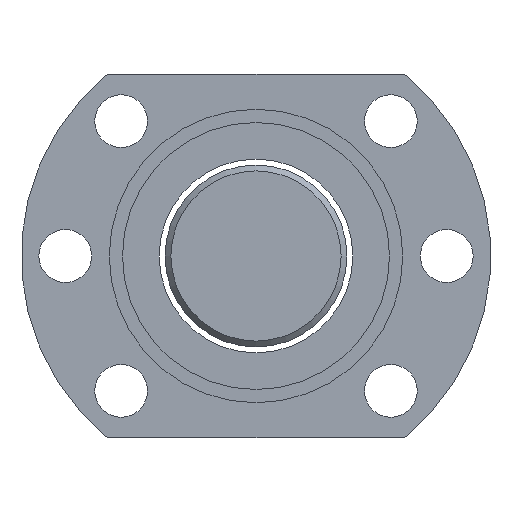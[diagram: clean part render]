
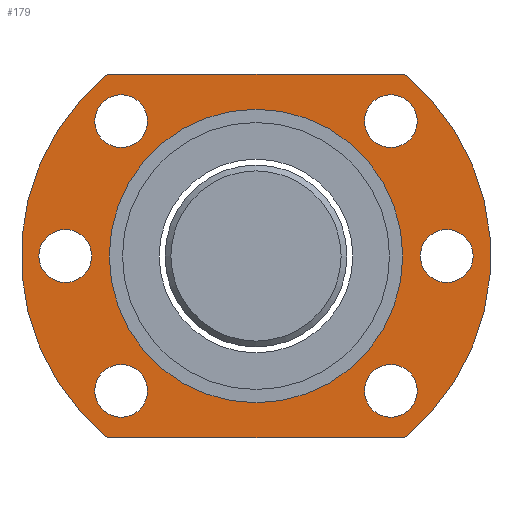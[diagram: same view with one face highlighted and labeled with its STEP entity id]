
A CAD part, left-side view. The second image highlights one B-rep face of the part: STEP entity #179.
In plain terms, the highlighted planar face has unit normal (-1, 0, 0).
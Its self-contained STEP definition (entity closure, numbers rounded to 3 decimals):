
#105=LINE('',#1156,#113);
#106=LINE('',#1160,#114);
#113=VECTOR('',#962,1.);
#114=VECTOR('',#965,1.);
#179=ADVANCED_FACE('',(#283,#284,#285,#286,#287,#288,#289,#290),#216,.T.);
#216=PLANE('',#798);
#283=FACE_BOUND('',#383,.T.);
#284=FACE_BOUND('',#384,.T.);
#285=FACE_BOUND('',#385,.T.);
#286=FACE_BOUND('',#386,.T.);
#287=FACE_BOUND('',#387,.T.);
#288=FACE_BOUND('',#388,.T.);
#289=FACE_BOUND('',#389,.T.);
#290=FACE_BOUND('',#390,.T.);
#383=EDGE_LOOP('',(#492));
#384=EDGE_LOOP('',(#493));
#385=EDGE_LOOP('',(#494,#495,#496,#497));
#386=EDGE_LOOP('',(#498));
#387=EDGE_LOOP('',(#499));
#388=EDGE_LOOP('',(#500));
#389=EDGE_LOOP('',(#501));
#390=EDGE_LOOP('',(#502));
#492=ORIENTED_EDGE('',*,*,#649,.T.);
#493=ORIENTED_EDGE('',*,*,#638,.F.);
#494=ORIENTED_EDGE('',*,*,#650,.T.);
#495=ORIENTED_EDGE('',*,*,#651,.T.);
#496=ORIENTED_EDGE('',*,*,#652,.T.);
#497=ORIENTED_EDGE('',*,*,#653,.T.);
#498=ORIENTED_EDGE('',*,*,#654,.F.);
#499=ORIENTED_EDGE('',*,*,#655,.F.);
#500=ORIENTED_EDGE('',*,*,#656,.F.);
#501=ORIENTED_EDGE('',*,*,#657,.T.);
#502=ORIENTED_EDGE('',*,*,#658,.T.);
#580=VERTEX_POINT('',#1128);
#591=VERTEX_POINT('',#1152);
#592=VERTEX_POINT('',#1154);
#593=VERTEX_POINT('',#1155);
#594=VERTEX_POINT('',#1157);
#595=VERTEX_POINT('',#1159);
#596=VERTEX_POINT('',#1162);
#597=VERTEX_POINT('',#1164);
#598=VERTEX_POINT('',#1166);
#599=VERTEX_POINT('',#1168);
#600=VERTEX_POINT('',#1170);
#638=EDGE_CURVE('',#580,#580,#700,.T.);
#649=EDGE_CURVE('',#591,#591,#709,.T.);
#650=EDGE_CURVE('',#592,#593,#710,.T.);
#651=EDGE_CURVE('',#593,#594,#105,.T.);
#652=EDGE_CURVE('',#594,#595,#711,.T.);
#653=EDGE_CURVE('',#595,#592,#106,.T.);
#654=EDGE_CURVE('',#596,#596,#712,.T.);
#655=EDGE_CURVE('',#597,#597,#713,.T.);
#656=EDGE_CURVE('',#598,#598,#714,.T.);
#657=EDGE_CURVE('',#599,#599,#715,.T.);
#658=EDGE_CURVE('',#600,#600,#716,.T.);
#700=CIRCLE('',#779,25.);
#709=CIRCLE('',#790,4.5);
#710=CIRCLE('',#791,40.);
#711=CIRCLE('',#792,40.);
#712=CIRCLE('',#793,4.5);
#713=CIRCLE('',#794,4.5);
#714=CIRCLE('',#795,4.5);
#715=CIRCLE('',#796,4.5);
#716=CIRCLE('',#797,4.5);
#779=AXIS2_PLACEMENT_3D('',#1127,#934,#935);
#790=AXIS2_PLACEMENT_3D('',#1151,#958,#959);
#791=AXIS2_PLACEMENT_3D('',#1153,#960,#961);
#792=AXIS2_PLACEMENT_3D('',#1158,#963,#964);
#793=AXIS2_PLACEMENT_3D('',#1161,#966,#967);
#794=AXIS2_PLACEMENT_3D('',#1163,#968,#969);
#795=AXIS2_PLACEMENT_3D('',#1165,#970,#971);
#796=AXIS2_PLACEMENT_3D('',#1167,#972,#973);
#797=AXIS2_PLACEMENT_3D('',#1169,#974,#975);
#798=AXIS2_PLACEMENT_3D('',#1171,#976,#977);
#934=DIRECTION('',(-1.,0.,0.));
#935=DIRECTION('',(0.,0.,-1.));
#958=DIRECTION('',(1.,0.,0.));
#959=DIRECTION('',(0.,0.,1.));
#960=DIRECTION('',(-1.,0.,0.));
#961=DIRECTION('',(0.,0.,-1.));
#962=DIRECTION('',(0.,-1.,0.));
#963=DIRECTION('',(-1.,0.,0.));
#964=DIRECTION('',(0.,0.,-1.));
#965=DIRECTION('',(0.,1.,0.));
#966=DIRECTION('',(-1.,0.,0.));
#967=DIRECTION('',(0.,0.,1.));
#968=DIRECTION('',(-1.,0.,0.));
#969=DIRECTION('',(0.,0.,1.));
#970=DIRECTION('',(-1.,0.,0.));
#971=DIRECTION('',(0.,0.,1.));
#972=DIRECTION('',(1.,0.,0.));
#973=DIRECTION('',(0.,0.,1.));
#974=DIRECTION('',(1.,0.,0.));
#975=DIRECTION('',(0.,0.,1.));
#976=DIRECTION('',(-1.,0.,0.));
#977=DIRECTION('',(0.,0.,1.));
#1127=CARTESIAN_POINT('',(-36.659,-10.736,7.674));
#1128=CARTESIAN_POINT('',(-36.659,-10.736,-17.326));
#1151=CARTESIAN_POINT('',(-36.659,-43.236,7.674));
#1152=CARTESIAN_POINT('',(-36.659,-43.236,12.174));
#1153=CARTESIAN_POINT('',(-36.659,-10.736,7.674));
#1154=CARTESIAN_POINT('',(-36.659,14.543,38.674));
#1155=CARTESIAN_POINT('',(-36.659,14.543,-23.326));
#1156=CARTESIAN_POINT('',(-36.659,14.543,-23.326));
#1157=CARTESIAN_POINT('',(-36.659,-36.014,-23.326));
#1158=CARTESIAN_POINT('',(-36.659,-10.736,7.674));
#1159=CARTESIAN_POINT('',(-36.659,-36.014,38.674));
#1160=CARTESIAN_POINT('',(-36.659,-36.014,38.674));
#1161=CARTESIAN_POINT('',(-36.659,21.764,7.674));
#1162=CARTESIAN_POINT('',(-36.659,21.764,12.174));
#1163=CARTESIAN_POINT('',(-36.659,12.245,30.655));
#1164=CARTESIAN_POINT('',(-36.659,12.245,35.155));
#1165=CARTESIAN_POINT('',(-36.659,12.245,-15.307));
#1166=CARTESIAN_POINT('',(-36.659,12.245,-10.807));
#1167=CARTESIAN_POINT('',(-36.659,-33.717,-15.307));
#1168=CARTESIAN_POINT('',(-36.659,-33.717,-10.807));
#1169=CARTESIAN_POINT('',(-36.659,-33.717,30.655));
#1170=CARTESIAN_POINT('',(-36.659,-33.717,35.155));
#1171=CARTESIAN_POINT('',(-36.659,-10.736,7.674));
